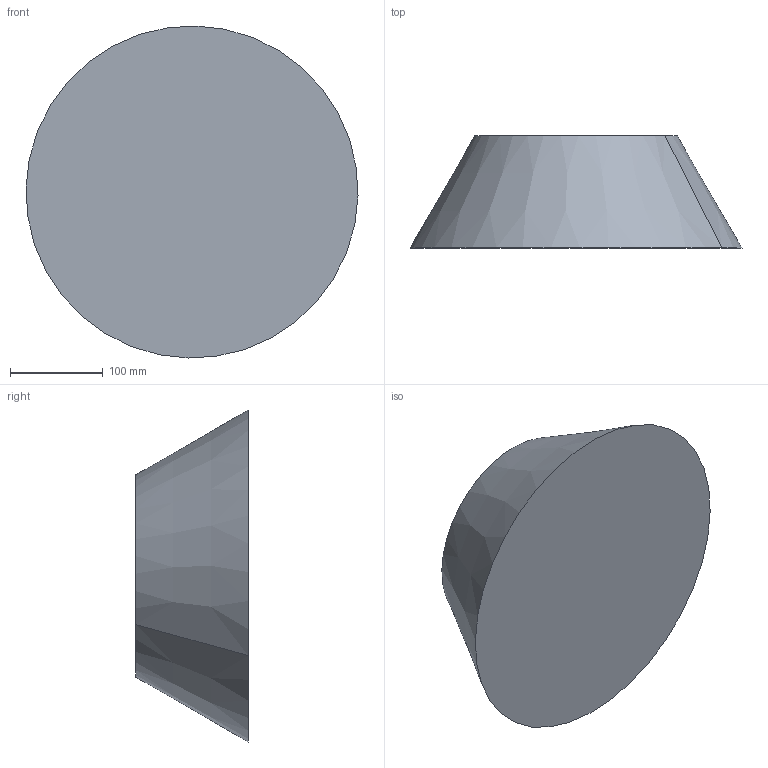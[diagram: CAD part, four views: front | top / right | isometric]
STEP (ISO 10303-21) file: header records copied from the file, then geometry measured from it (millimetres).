
FILE_DESCRIPTION(('CATIA V5 STEP Exchange'),'2;1');
FILE_NAME('C:\_Andres\UNIVERSIDAD\IQS\ASIGNATURAS\DAO\EXF\EXF-16172c\2inicio\Pares_Guanybens_Ej09_v21.stp','2017-03-05T22:13:13+00:00',('none'),('none'),'CATIA Version 5-6 Release 2014 SP1 HF18','CATIA V5 STEP AP203','none');
FILE_SCHEMA(('CONFIG_CONTROL_DESIGN'));
Length unit declared in the file: millimetre
Products named in the file (1): Pares_Guanybens_Ej09_v21
Bounding box: 357.9 x 121 x 357.9 mm (x, y, z)
Volume: 8036874.9 mm3; surface area: 266756.8 mm2
Topology: 1 solids, 2 shells, 8 faces, 12 edges, 8 vertices
Faces by surface type: plane 4, cone 2, cylinder 2
Entity records: 205 total; most frequent: CARTESIAN_POINT 27, DIRECTION 24, ORIENTED_EDGE 24, AXIS2_PLACEMENT_3D 15, EDGE_CURVE 12, ADVANCED_FACE 8, CIRCLE 8, EDGE_LOOP 8
